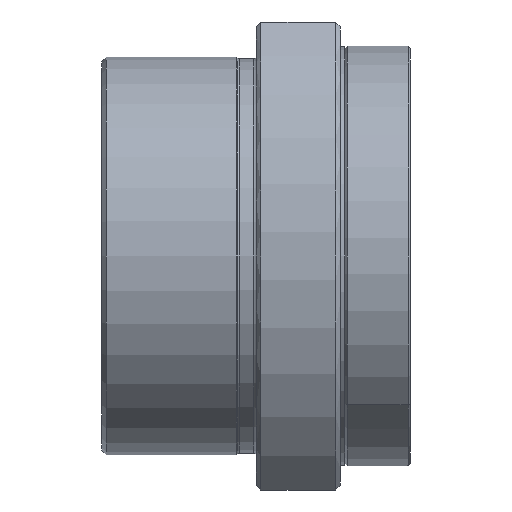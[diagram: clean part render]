
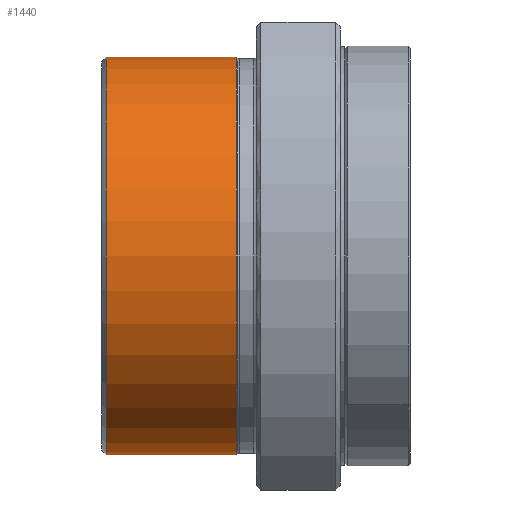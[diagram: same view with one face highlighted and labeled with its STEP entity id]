
A CAD part, front view. The second image highlights one B-rep face of the part: STEP entity #1440.
In plain terms, the highlighted cylindrical face has radius 42.5 mm (diameter 85 mm), a partial arc.
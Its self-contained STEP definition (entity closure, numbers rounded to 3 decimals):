
#133 = ORIENTED_EDGE ( 'NONE', *, *, #1031, .T. ) ;
#134 = ORIENTED_EDGE ( 'NONE', *, *, #1029, .F. ) ;
#135 = ORIENTED_EDGE ( 'NONE', *, *, #6837, .T. ) ;
#151 = ORIENTED_EDGE ( 'NONE', *, *, #6845, .T. ) ;
#625 = VERTEX_POINT ( 'NONE', #3711 ) ;
#626 = VERTEX_POINT ( 'NONE', #3712 ) ;
#627 = VERTEX_POINT ( 'NONE', #3713 ) ;
#628 = VERTEX_POINT ( 'NONE', #3714 ) ;
#1029 = EDGE_CURVE ( 'NONE', #628, #626, #4265, .T. ) ;
#1031 = EDGE_CURVE ( 'NONE', #627, #625, #4271, .T. ) ;
#1440 = ADVANCED_FACE ( 'NONE', ( #6139 ), #6142, .T. ) ;
#2144 = CIRCLE ( 'NONE', #6352, 42.5 ) ;
#2152 = CIRCLE ( 'NONE', #6361, 42.5 ) ;
#2843 = EDGE_LOOP ( 'NONE', ( #134, #135, #133, #151 ) ) ;
#3711 = CARTESIAN_POINT ( 'NONE',  ( -51., 0., 42.5 ) ) ;
#3712 = CARTESIAN_POINT ( 'NONE',  ( -51., 0., -42.5 ) ) ;
#3713 = CARTESIAN_POINT ( 'NONE',  ( -23.272, 0., 42.5 ) ) ;
#3714 = CARTESIAN_POINT ( 'NONE',  ( -23.272, 0., -42.5 ) ) ;
#4265 = LINE ( 'NONE', #4266, #4571 ) ;
#4266 = CARTESIAN_POINT ( 'NONE',  ( -91.071, 0., -42.5 ) ) ;
#4267 = DIRECTION ( 'NONE',  ( -1., 0., 0. ) ) ;
#4271 = LINE ( 'NONE', #4272, #4573 ) ;
#4272 = CARTESIAN_POINT ( 'NONE',  ( -91.071, 0., 42.5 ) ) ;
#4273 = DIRECTION ( 'NONE',  ( -1., 0., 0. ) ) ;
#4571 = VECTOR ( 'NONE', #4267, 1000. ) ;
#4573 = VECTOR ( 'NONE', #4273, 1000. ) ;
#5955 = CARTESIAN_POINT ( 'NONE',  ( -91.071, 0., 0. ) ) ;
#5956 = DIRECTION ( 'NONE',  ( -1., 0., 0. ) ) ;
#5957 = DIRECTION ( 'NONE',  ( 0., 0., 1. ) ) ;
#6137 = AXIS2_PLACEMENT_3D ( 'NONE', #5955, #5956, #5957 ) ;
#6139 = FACE_OUTER_BOUND ( 'NONE', #2843, .T. ) ;
#6142 = CYLINDRICAL_SURFACE ( 'NONE', #6137, 42.5 ) ;
#6352 = AXIS2_PLACEMENT_3D ( 'NONE', #6696, #6697, #6698 ) ;
#6361 = AXIS2_PLACEMENT_3D ( 'NONE', #6720, #6721, #6722 ) ;
#6696 = CARTESIAN_POINT ( 'NONE',  ( -23.272, 0., 0. ) ) ;
#6697 = DIRECTION ( 'NONE',  ( -1., 0., 0. ) ) ;
#6698 = DIRECTION ( 'NONE',  ( 0., 0., 1. ) ) ;
#6720 = CARTESIAN_POINT ( 'NONE',  ( -51., 0., 0. ) ) ;
#6721 = DIRECTION ( 'NONE',  ( 1., 0., 0. ) ) ;
#6722 = DIRECTION ( 'NONE',  ( 0., 0., -1. ) ) ;
#6837 = EDGE_CURVE ( 'NONE', #628, #627, #2144, .T. ) ;
#6845 = EDGE_CURVE ( 'NONE', #625, #626, #2152, .T. ) ;
